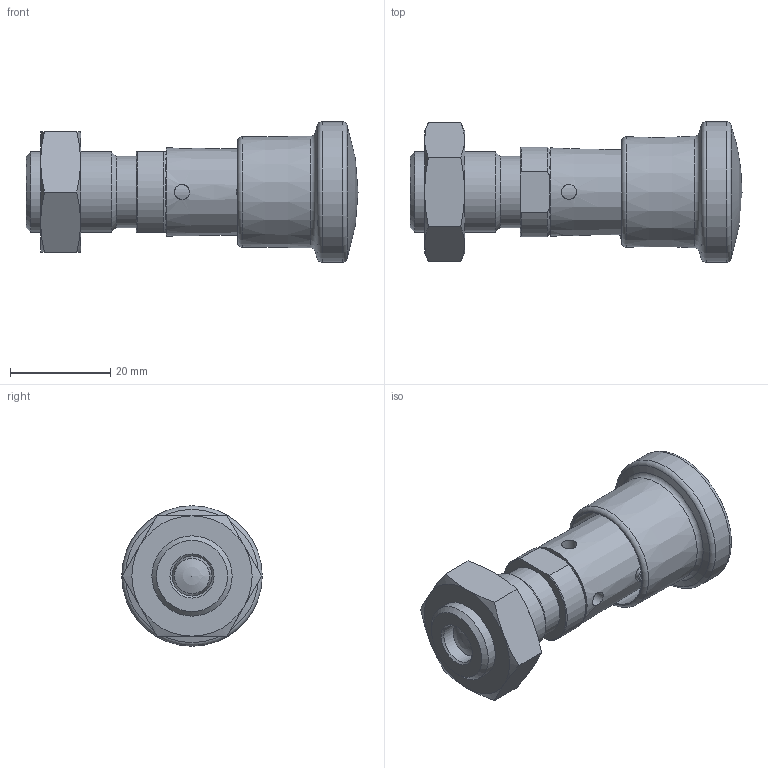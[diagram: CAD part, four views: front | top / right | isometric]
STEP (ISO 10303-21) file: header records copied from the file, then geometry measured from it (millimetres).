
FILE_DESCRIPTION( ( 'STEP AP203' ), '1' );
FILE_NAME( 'C:/Temp/Ganter_Step_05_03_2020/data/3_1/gn816_1/gn_816_1_ark/Locking plunger GN 816.1-8-M16x1,5-ARK (deactivated).stp', '2020-03-12T08:56:16', ( 'License CC BY-ND 4.0' ), ( 'CADENAS' ), ' ', 'PARTsolutions', ' ' );
FILE_SCHEMA( ( 'CONFIG_CONTROL_DESIGN' ) );
Length unit declared in the file: millimetre
Products named in the file (4): Locking plunger GN 816.1-8-M16x1,5-ARK (deactivated); _GN 816.1-8-M16x1,5-AR (deactivated)-2; _GN 816.1-8-M16x1,5-AR (deactivated)-1; _Lock nut ISO 8675 GN 816-8-M16x1,5-AK
Assembly tree (3 placements, depth 2):
  Locking plunger GN 816.1-8-M16x1,5-ARK (deactivated)
    _GN 816.1-8-M16x1,5-AR (deactivated)-2
    _GN 816.1-8-M16x1,5-AR (deactivated)-1
    _Lock nut ISO 8675 GN 816-8-M16x1,5-AK
Bounding box: 66.2 x 28 x 28 mm (x, y, z)
Volume: 16901.3 mm3; surface area: 12075.4 mm2
Topology: 3 solids, 3 shells, 78 faces, 165 edges, 101 vertices
Faces by surface type: cone 31, plane 22, cylinder 17, torus 6, sphere 2
Full cylindrical faces by diameter (mm): 2.9 x1, 3 x3, 8 x2, 11 x1, 11.1 x1, 14.2 x2, 14.376 x1, 16 x1, 18.2 x1, 20.017 x1, 28 x1
Entity records: 2409 total; most frequent: CARTESIAN_POINT 809, DIRECTION 308, ORIENTED_EDGE 236, AXIS2_PLACEMENT_3D 147, EDGE_LOOP 134, EDGE_CURVE 118, FACE_OUTER_BOUND 99, VERTEX_POINT 94
